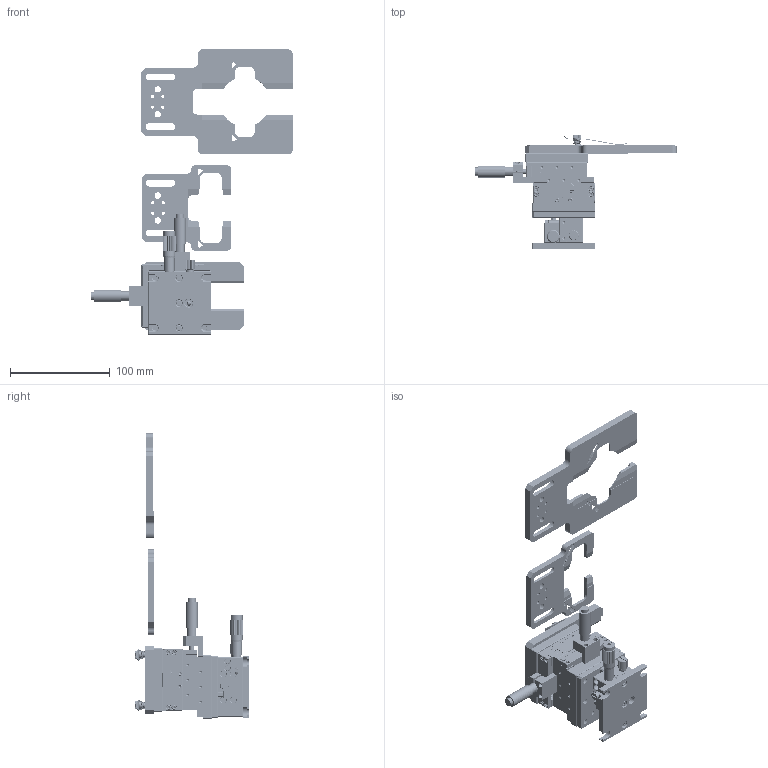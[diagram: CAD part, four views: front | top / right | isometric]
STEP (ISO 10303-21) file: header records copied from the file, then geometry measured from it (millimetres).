
FILE_DESCRIPTION((''),'2;1');
FILE_NAME('SLHA-XYZ-LD1_ASM','2026-07-08T11:24:49',('Administrator'),(''),'CREO PARAMETRIC BY PTC INC, 2025102','CREO PARAMETRIC BY PTC INC, 2025102','');
FILE_SCHEMA(('CONFIG_CONTROL_DESIGN'));
Products named in the file (97): TSX-ZL-A1_314_1; TSX-ZL-A2_365_1; TSX-ZL-A3_323_1; TSX-ZL-A4_333_1; TSX-ZL-A5_131_1; ISO7045-M2_5X3-4_8_11_1; ISO7045-M2_5X5-4_8_7_1; TSX-ZL-A6_19_1; TSX-ZL-A1-1_ASM_244_ASM_1_ASM; TSX-ZL-A7_184_1; SM13_A1_107_1; SM13_A2_9_1; SM13_A6_9_1; SM13_A3_9_1; SM13_A4_9_1; SM25_A5_8_1; SM13_ASM_7_ASM_1_ASM; TSX-ZL-A8_138_1; TSX-ZL-A9_64_1; ISO14579-M3X10-8_8_2_1; TSX-ZL-B1_78_1; ISO14579-M3X8-8_8_5_1; ISO14579-M3X6-8_8_2_1; ISO7045-M3X6-4_8_2_1; TSX-ZL-B2_15_1; TSX-ZL-B4_44_1; TSX-ZL-B5_109_1; TSX-ZL-B3_ASM_37_ASM_1_ASM; TSX-ZL_ASM_649_ASM_1_ASM; TSX-ZL_ASM_ASM_1_ASM; OPS-M406A_1; TSX-LD1-A1_261_1; TSX-LD1-A2_46_1; TSX-LD1-A3_179_1; TSX-LD1-A4_19_1; TSX-LD1-A5_19_1; TSX-LD1-A6_17_1; TSX-LD1-A7_36_1; TSX-LD1-A8_9_1; TSX-LD1-B1_ASM_26_ASM_1_ASM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
Assembly tree (171 placements, depth 6):
  SLHA-XYZ-LD1_ASM
    TSX-ZL_ASM_ASM_1_ASM
      TSX-ZL_ASM_649_ASM_1_ASM
        TSX-ZL-A1_314_1
        TSX-ZL-A2_365_1
        TSX-ZL-A3_323_1
        TSX-ZL-A4_333_1
        TSX-ZL-A1-1_ASM_244_ASM_1_ASM  x2
          TSX-ZL-A5_131_1
          ISO7045-M2_5X3-4_8_11_1
          ISO7045-M2_5X5-4_8_7_1
          TSX-ZL-A6_19_1
        TSX-ZL-A7_184_1
        SM13_ASM_7_ASM_1_ASM
          SM13_A1_107_1
          SM13_A2_9_1
          SM13_A6_9_1
          SM13_A3_9_1
          SM13_A4_9_1
          SM25_A5_8_1
        TSX-ZL-A8_138_1
        TSX-ZL-A9_64_1
        ISO14579-M3X10-8_8_2_1  x2
        TSX-ZL-B1_78_1
        ISO14579-M3X8-8_8_5_1  x2
        ISO14579-M3X6-8_8_2_1  x3
        ISO7045-M3X6-4_8_2_1
        TSX-ZL-B2_15_1  x2
        TSX-ZL-B3_ASM_37_ASM_1_ASM
          TSX-ZL-B4_44_1
          TSX-ZL-B5_109_1
    OPS-M406A_1
    TSX-LD1-1_ASM_1_ASM
      TSX-LD1_ASM_303_ASM_1_ASM
        TSX-LD1-A1_261_1
        TSX-LD1-A2_46_1  x4
        TSX-LD1-A3_179_1
        TSX-LD1-A4_19_1  x4
        TSX-LD1-A5_19_1  x4
        TSX-LD1-A6_17_1
        TSX-LD1-B1_ASM_26_ASM_1_ASM  x2
          TSX-LD1-A7_36_1
          TSX-LD1-A8_9_1
        TSX-LD1-B2_ASM_130_ASM_1_ASM
          TSX-LD1-A9_93_1
          TSX-LD1-A10_8_1  x2
          TSX-LD1-A11_69_ASM_1_ASM  x2
            TSX-LD1-A11_69_1_1
            TSX-LD1-A11_69_2_1
        TSX-LD1-A12_12_1  x2
        ISHCS0402_4_1  x9
        TSX-LD1-A13_35_1
        TSX-LD1-A14_8_1
        TSX-LD1-A15_92_1
        ISHCS0402-2_10_1  x2
        TSX-LD1-A16_21_1  x3
        TSX-LD1-A17_5_1
        TSX-LD1-A18_31_1
    TSX-LD1-2_ASM_1_ASM
      TSX-LD1_ASM_303_1_ASM_1_ASM
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Bounding box: 202.23 x 114.97 x 286.56 mm (x, y, z)
Volume: 389743.2 mm3; surface area: 251064.3 mm2
Topology: 180 solids, 363 shells, 12972 faces, 35795 edges, 23295 vertices
Faces by surface type: cylinder 6508, plane 2778, bspline 2407, cone 952, torus 120, extrusion 105, sphere 102
Entity records: 789237 total; most frequent: CARTESIAN_POINT 527994, ORIENTED_EDGE 61556, DIRECTION 41738, EDGE_CURVE 31088, VERTEX_POINT 20402, AXIS2_PLACEMENT_3D 14965, B_SPLINE_CURVE_WITH_KNOTS 13753, EDGE_LOOP 12027
